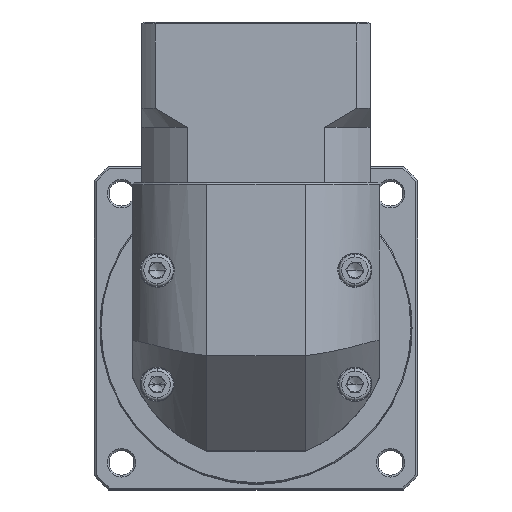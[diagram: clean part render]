
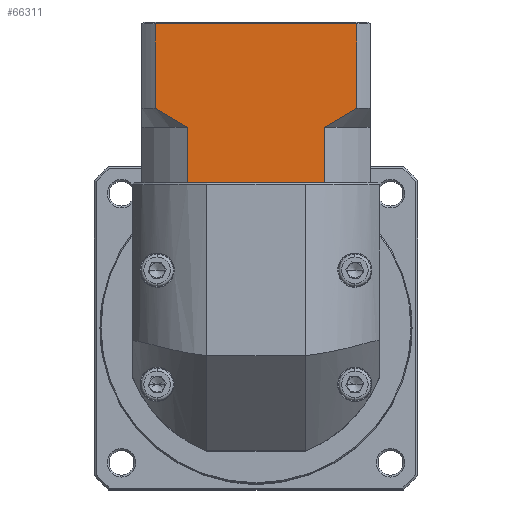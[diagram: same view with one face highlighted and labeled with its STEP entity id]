
A CAD part, top view. The second image highlights one B-rep face of the part: STEP entity #66311.
In plain terms, the highlighted planar face has unit normal (0, 0, 1).
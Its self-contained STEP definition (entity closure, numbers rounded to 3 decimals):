
#6540 = ORIENTED_EDGE ( 'NONE', *, *, #66989, .F. ) ;
#12409 = CARTESIAN_POINT ( 'NONE',  ( -31.076, 107.778, 39.23 ) ) ;
#12503 = EDGE_CURVE ( 'NONE', #20570, #19350, #36317, .T. ) ;
#15212 = CARTESIAN_POINT ( 'NONE',  ( -75.562, 107.778, 39.23 ) ) ;
#16674 = CARTESIAN_POINT ( 'NONE',  ( -67.132, 107.778, 39.23 ) ) ;
#17734 = CARTESIAN_POINT ( 'NONE',  ( -31.076, 93.278, 39.23 ) ) ;
#17808 = CARTESIAN_POINT ( 'NONE',  ( -67.132, 107.778, 39.23 ) ) ;
#17838 = ORIENTED_EDGE ( 'NONE', *, *, #125978, .F. ) ;
#18493 = ORIENTED_EDGE ( 'NONE', *, *, #148821, .T. ) ;
#18671 = CARTESIAN_POINT ( 'NONE',  ( -29.62, 108.528, 39.23 ) ) ;
#19350 = VERTEX_POINT ( 'NONE', #56280 ) ;
#20570 = VERTEX_POINT ( 'NONE', #85749 ) ;
#24370 = DIRECTION ( 'NONE',  ( 1., 0., 0. ) ) ;
#24989 = LINE ( 'NONE', #71054, #49859 ) ;
#25462 = CARTESIAN_POINT ( 'NONE',  ( -79.104, 93.278, 39.23 ) ) ;
#26757 = DIRECTION ( 'NONE',  ( 1., 0., 0. ) ) ;
#27188 = B_SPLINE_CURVE_WITH_KNOTS ( 'NONE', 3,
 ( #75663, #125089, #149785, #89545, #114297, #16674 ),
 .UNSPECIFIED., .F., .F.,
 ( 4, 2, 4 ),
 ( 0.052, 0.057, 0.062 ),
 .UNSPECIFIED. ) ;
#28623 = VECTOR ( 'NONE', #40914, 1000. ) ;
#29004 = DIRECTION ( 'NONE',  ( 0., -1., 0. ) ) ;
#30521 = CARTESIAN_POINT ( 'NONE',  ( -25.389, 111.002, 39.23 ) ) ;
#32099 = ORIENTED_EDGE ( 'NONE', *, *, #141059, .T. ) ;
#35959 = VERTEX_POINT ( 'NONE', #17734 ) ;
#36317 = LINE ( 'NONE', #15212, #28623 ) ;
#36969 = VECTOR ( 'NONE', #26757, 1000. ) ;
#40914 = DIRECTION ( 'NONE',  ( 0., 1., 0. ) ) ;
#42653 = LINE ( 'NONE', #12409, #105923 ) ;
#43732 = VERTEX_POINT ( 'NONE', #60593 ) ;
#48321 = CARTESIAN_POINT ( 'NONE',  ( -79.104, 135.478, 39.23 ) ) ;
#49859 = VECTOR ( 'NONE', #84428, 1000. ) ;
#53538 = CARTESIAN_POINT ( 'NONE',  ( -31.076, 107.778, 39.23 ) ) ;
#54733 = ORIENTED_EDGE ( 'NONE', *, *, #56296, .T. ) ;
#55437 = EDGE_CURVE ( 'NONE', #149090, #99374, #60605, .T. ) ;
#56280 = CARTESIAN_POINT ( 'NONE',  ( -75.562, 134.978, 39.23 ) ) ;
#56296 = EDGE_CURVE ( 'NONE', #87898, #35959, #127195, .T. ) ;
#57346 = EDGE_CURVE ( 'NONE', #43732, #19350, #24989, .T. ) ;
#60593 = CARTESIAN_POINT ( 'NONE',  ( -22.647, 134.978, 39.23 ) ) ;
#60605 = LINE ( 'NONE', #17808, #72094 ) ;
#64000 = VERTEX_POINT ( 'NONE', #97596 ) ;
#66311 = ADVANCED_FACE ( 'NONE', ( #150569 ), #73500, .F. ) ;
#66989 = EDGE_CURVE ( 'NONE', #101131, #35959, #42653, .T. ) ;
#68447 = ORIENTED_EDGE ( 'NONE', *, *, #55437, .F. ) ;
#70834 = CARTESIAN_POINT ( 'NONE',  ( -22.647, 107.778, 39.23 ) ) ;
#71054 = CARTESIAN_POINT ( 'NONE',  ( -79.104, 134.978, 39.23 ) ) ;
#72094 = VECTOR ( 'NONE', #129931, 1000. ) ;
#73500 = PLANE ( 'NONE',  #139224 ) ;
#73902 = CARTESIAN_POINT ( 'NONE',  ( -32.067, 93.278, 39.23 ) ) ;
#75663 = CARTESIAN_POINT ( 'NONE',  ( -75.562, 112.778, 39.23 ) ) ;
#77832 = CARTESIAN_POINT ( 'NONE',  ( -67.132, 93.278, 39.23 ) ) ;
#79428 = ORIENTED_EDGE ( 'NONE', *, *, #12503, .F. ) ;
#82437 = LINE ( 'NONE', #70834, #124753 ) ;
#83809 = EDGE_CURVE ( 'NONE', #149090, #64000, #144855, .T. ) ;
#84428 = DIRECTION ( 'NONE',  ( -1., 0., 0. ) ) ;
#85749 = CARTESIAN_POINT ( 'NONE',  ( -75.562, 112.778, 39.23 ) ) ;
#87768 = ORIENTED_EDGE ( 'NONE', *, *, #121720, .T. ) ;
#87898 = VERTEX_POINT ( 'NONE', #73902 ) ;
#89545 = CARTESIAN_POINT ( 'NONE',  ( -70.015, 109.329, 39.23 ) ) ;
#91012 = CARTESIAN_POINT ( 'NONE',  ( -24.009, 111.876, 39.23 ) ) ;
#91925 = B_SPLINE_CURVE_WITH_KNOTS ( 'NONE', 3,
 ( #53538, #18671, #128162, #30521, #91012, #116304 ),
 .UNSPECIFIED., .F., .F.,
 ( 4, 2, 4 ),
 ( 0.1, 0.104, 0.109 ),
 .UNSPECIFIED. ) ;
#92914 = CARTESIAN_POINT ( 'NONE',  ( -79.104, 93.278, 39.23 ) ) ;
#97596 = CARTESIAN_POINT ( 'NONE',  ( -66.141, 93.278, 39.23 ) ) ;
#99374 = VERTEX_POINT ( 'NONE', #129704 ) ;
#100920 = ORIENTED_EDGE ( 'NONE', *, *, #83809, .T. ) ;
#101131 = VERTEX_POINT ( 'NONE', #145733 ) ;
#105923 = VECTOR ( 'NONE', #29004, 1000. ) ;
#114297 = CARTESIAN_POINT ( 'NONE',  ( -68.584, 108.525, 39.23 ) ) ;
#115458 = CARTESIAN_POINT ( 'NONE',  ( -22.647, 112.778, 39.23 ) ) ;
#116304 = CARTESIAN_POINT ( 'NONE',  ( -22.647, 112.778, 39.23 ) ) ;
#119033 = LINE ( 'NONE', #25462, #128800 ) ;
#121720 = EDGE_CURVE ( 'NONE', #20570, #99374, #27188, .T. ) ;
#124753 = VECTOR ( 'NONE', #132087, 1000. ) ;
#125089 = CARTESIAN_POINT ( 'NONE',  ( -74.202, 111.878, 39.23 ) ) ;
#125964 = CARTESIAN_POINT ( 'NONE',  ( -79.104, 93.278, 39.23 ) ) ;
#125978 = EDGE_CURVE ( 'NONE', #43732, #154797, #82437, .T. ) ;
#127195 = LINE ( 'NONE', #125964, #36969 ) ;
#128162 = CARTESIAN_POINT ( 'NONE',  ( -28.194, 109.328, 39.23 ) ) ;
#128800 = VECTOR ( 'NONE', #24370, 1000. ) ;
#129704 = CARTESIAN_POINT ( 'NONE',  ( -67.132, 107.778, 39.23 ) ) ;
#129931 = DIRECTION ( 'NONE',  ( 0., 1., 0. ) ) ;
#132087 = DIRECTION ( 'NONE',  ( 0., -1., 0. ) ) ;
#132330 = ORIENTED_EDGE ( 'NONE', *, *, #57346, .T. ) ;
#133818 = DIRECTION ( 'NONE',  ( 1., 0., 0. ) ) ;
#134241 = DIRECTION ( 'NONE',  ( 0., 1., 0. ) ) ;
#139224 = AXIS2_PLACEMENT_3D ( 'NONE', #48321, #148153, #134241 ) ;
#141059 = EDGE_CURVE ( 'NONE', #101131, #154797, #91925, .T. ) ;
#144855 = LINE ( 'NONE', #92914, #158337 ) ;
#145733 = CARTESIAN_POINT ( 'NONE',  ( -31.076, 107.778, 39.23 ) ) ;
#145923 = EDGE_LOOP ( 'NONE', ( #17838, #132330, #79428, #87768, #68447, #100920, #18493, #54733, #6540, #32099 ) ) ;
#148153 = DIRECTION ( 'NONE',  ( 0., 0., -1. ) ) ;
#148821 = EDGE_CURVE ( 'NONE', #64000, #87898, #119033, .T. ) ;
#149090 = VERTEX_POINT ( 'NONE', #77832 ) ;
#149785 = CARTESIAN_POINT ( 'NONE',  ( -72.823, 111.005, 39.23 ) ) ;
#150569 = FACE_OUTER_BOUND ( 'NONE', #145923, .T. ) ;
#154797 = VERTEX_POINT ( 'NONE', #115458 ) ;
#158337 = VECTOR ( 'NONE', #133818, 1000. ) ;
